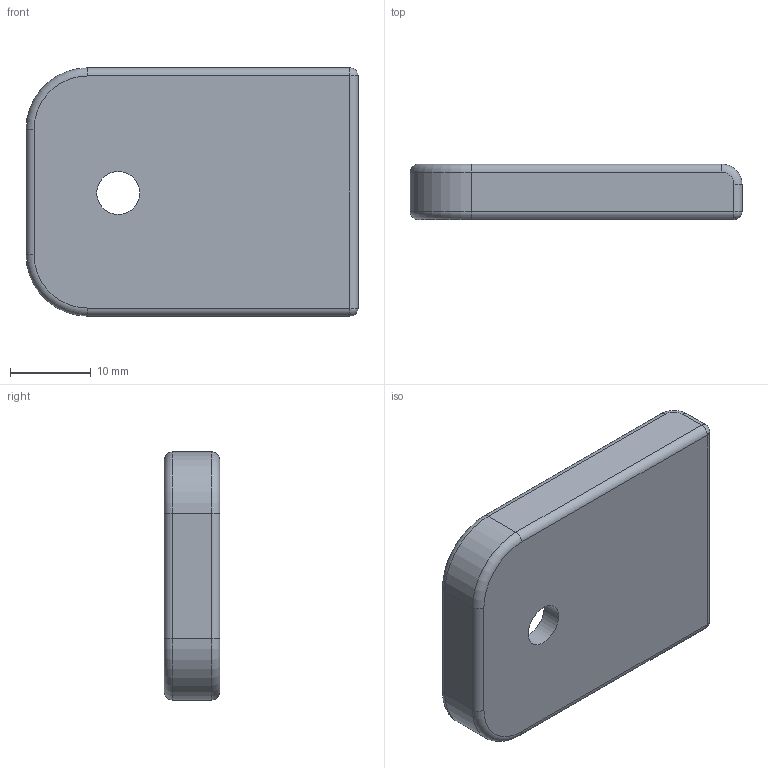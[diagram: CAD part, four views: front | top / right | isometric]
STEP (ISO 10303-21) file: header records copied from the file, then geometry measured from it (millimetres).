
FILE_DESCRIPTION(/* description */ (''),/* implementation_level */ '2;1');
FILE_NAME(/* name */ 'D:/Gunny McGunsmith/Glock 17 and 19/Baseplate and Extension/Glock Mag Baseplate v1.step',/* time_stamp */ '2019-08-25T22:27:07-04:00',/* author */ (''),/* organization */ (''),/* preprocessor_version */ 'ST-DEVELOPER v18',/* originating_system */ 'Autodesk Translation Framework v8.6.0.1094',/* authorisation */ '');
FILE_SCHEMA (('AUTOMOTIVE_DESIGN { 1 0 10303 214 3 1 1 }'));
Length unit declared in the file: millimetre
Products named in the file (1): Glock Mag Baseplate
Bounding box: 41.17 x 6.85 x 30.78 mm (x, y, z)
Volume: 4313.7 mm3; surface area: 3860.9 mm2
Topology: 1 solids, 1 shells, 59 faces, 149 edges, 92 vertices
Faces by surface type: plane 26, cylinder 23, torus 8, sphere 2
Full cylindrical faces by diameter (mm): 5.334 x1
Entity records: 1835 total; most frequent: CARTESIAN_POINT 323, DIRECTION 319, ORIENTED_EDGE 298, EDGE_CURVE 149, AXIS2_PLACEMENT_3D 112, LINE 95, VECTOR 95, VERTEX_POINT 92
